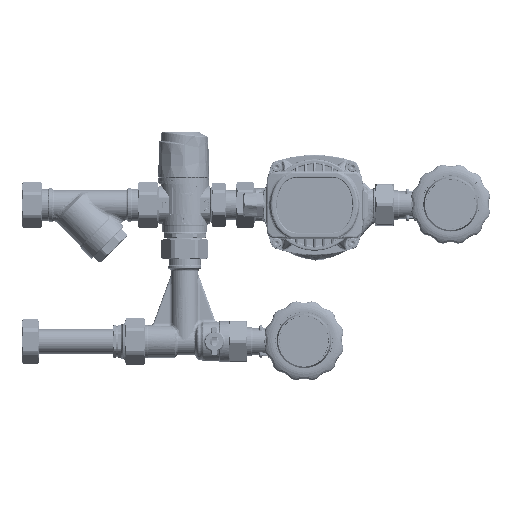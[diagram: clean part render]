
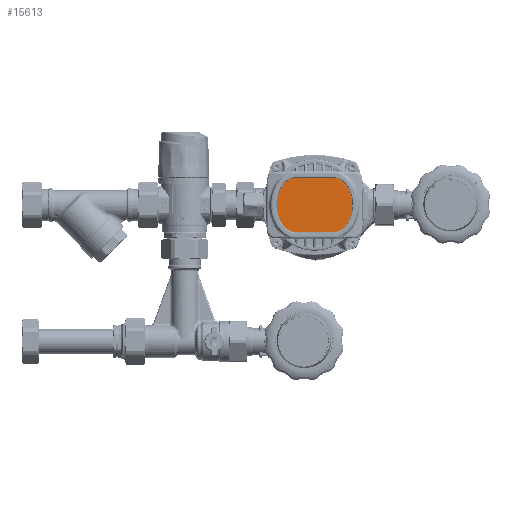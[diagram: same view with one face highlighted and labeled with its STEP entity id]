
A CAD part, top view. The second image highlights one B-rep face of the part: STEP entity #15613.
In plain terms, the highlighted planar face has unit normal (0, -0.003, 1) as drawn and (0, 0, -1) by its records, which use the part's own axes.
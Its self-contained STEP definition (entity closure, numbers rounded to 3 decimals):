
#9531 = B_SPLINE_CURVE_WITH_KNOTS ( 'NONE', 3,
 ( #157178, #33860, #27964, #168970, #171890, #366797 ),
 .UNSPECIFIED., .F., .F.,
 ( 4, 1, 1, 4 ),
 ( 0.01, 0.255, 0.5, 0.99 ),
 .UNSPECIFIED. ) ;
#12905 = AXIS2_PLACEMENT_3D ( 'NONE', #243827, #335669, #278312 ) ;
#13279 = CARTESIAN_POINT ( 'NONE',  ( 34.355, 2.144, -93.329 ) ) ;
#13505 = EDGE_CURVE ( 'NONE', #85295, #127082, #444747, .T. ) ;
#15613 = ADVANCED_FACE ( 'NONE', ( #363862 ), #151067, .F. ) ;
#19122 = VERTEX_POINT ( 'NONE', #418977 ) ;
#23032 = EDGE_CURVE ( 'NONE', #72004, #232828, #373623, .T. ) ;
#27964 = CARTESIAN_POINT ( 'NONE',  ( -33.464, 6.4, -93.329 ) ) ;
#30252 = LINE ( 'NONE', #345529, #179723 ) ;
#32012 = ORIENTED_EDGE ( 'NONE', *, *, #35076, .F. ) ;
#33860 = CARTESIAN_POINT ( 'NONE',  ( -32.205, 10.484, -93.329 ) ) ;
#35076 = EDGE_CURVE ( 'NONE', #19122, #36087, #83563, .T. ) ;
#36087 = VERTEX_POINT ( 'NONE', #185880 ) ;
#37131 = CARTESIAN_POINT ( 'NONE',  ( 15.656, -9., -93.329 ) ) ;
#37791 = EDGE_CURVE ( 'NONE', #401682, #253625, #30252, .T. ) ;
#49975 = VERTEX_POINT ( 'NONE', #162963 ) ;
#55965 = CARTESIAN_POINT ( 'NONE',  ( 31.4, -12.474, -93.329 ) ) ;
#57699 = DIRECTION ( 'NONE',  ( 1., 0., 0. ) ) ;
#59665 = DIRECTION ( 'NONE',  ( 1., 0., 0. ) ) ;
#62149 = LINE ( 'NONE', #74924, #354452 ) ;
#72004 = VERTEX_POINT ( 'NONE', #55965 ) ;
#72740 = VERTEX_POINT ( 'NONE', #429162 ) ;
#74081 = AXIS2_PLACEMENT_3D ( 'NONE', #399607, #267621, #57699 ) ;
#74924 = CARTESIAN_POINT ( 'NONE',  ( -15.653, 24.4, -93.329 ) ) ;
#77283 = AXIS2_PLACEMENT_3D ( 'NONE', #111167, #292612, #145860 ) ;
#81374 = ORIENTED_EDGE ( 'NONE', *, *, #326777, .F. ) ;
#83563 = CIRCLE ( 'NONE', #12905, 15.4 ) ;
#85295 = VERTEX_POINT ( 'NONE', #282780 ) ;
#91049 = CARTESIAN_POINT ( 'NONE',  ( 32.208, -10.484, -93.329 ) ) ;
#94669 = EDGE_LOOP ( 'NONE', ( #292743, #289690, #400077, #81374, #168072, #358781, #408209, #183496, #294723, #288062, #32012, #288462 ) ) ;
#108379 = DIRECTION ( 'NONE',  ( 0., 0., 1. ) ) ;
#110709 = AXIS2_PLACEMENT_3D ( 'NONE', #159796, #395017, #323393 ) ;
#111167 = CARTESIAN_POINT ( 'NONE',  ( 15.656, 9., -93.329 ) ) ;
#112584 = CARTESIAN_POINT ( 'NONE',  ( -26.943, -19.474, -93.329 ) ) ;
#112941 = CIRCLE ( 'NONE', #212492, 23.021 ) ;
#127082 = VERTEX_POINT ( 'NONE', #112584 ) ;
#134086 = CIRCLE ( 'NONE', #74081, 15.4 ) ;
#140151 = DIRECTION ( 'NONE',  ( 0., 0., 1. ) ) ;
#145860 = DIRECTION ( 'NONE',  ( 1., 0., 0. ) ) ;
#148445 = AXIS2_PLACEMENT_3D ( 'NONE', #37131, #200701, #59665 ) ;
#151067 = PLANE ( 'NONE',  #254058 ) ;
#155997 = VERTEX_POINT ( 'NONE', #315190 ) ;
#157178 = CARTESIAN_POINT ( 'NONE',  ( -31.397, 12.474, -93.329 ) ) ;
#159796 = CARTESIAN_POINT ( 'NONE',  ( -10.066, -3.817, -93.329 ) ) ;
#160328 = CARTESIAN_POINT ( 'NONE',  ( 33.016, 8.493, -93.329 ) ) ;
#162963 = CARTESIAN_POINT ( 'NONE',  ( 15.656, 24.4, -93.329 ) ) ;
#168072 = ORIENTED_EDGE ( 'NONE', *, *, #387462, .F. ) ;
#168970 = CARTESIAN_POINT ( 'NONE',  ( -34.353, -2.145, -93.329 ) ) ;
#171890 = CARTESIAN_POINT ( 'NONE',  ( -33.013, -8.493, -93.329 ) ) ;
#175865 = CARTESIAN_POINT ( 'NONE',  ( 15.656, -24.4, -93.329 ) ) ;
#179579 = CARTESIAN_POINT ( 'NONE',  ( -15.653, 9., -93.329 ) ) ;
#179723 = VECTOR ( 'NONE', #379829, 1000. ) ;
#183496 = ORIENTED_EDGE ( 'NONE', *, *, #13505, .F. ) ;
#185880 = CARTESIAN_POINT ( 'NONE',  ( -26.943, 19.474, -93.329 ) ) ;
#200701 = DIRECTION ( 'NONE',  ( 0., 0., 1. ) ) ;
#212492 = AXIS2_PLACEMENT_3D ( 'NONE', #306725, #108379, #387187 ) ;
#228266 = EDGE_CURVE ( 'NONE', #232828, #72740, #349456, .T. ) ;
#230213 = CARTESIAN_POINT ( 'NONE',  ( -15.653, -24.4, -93.329 ) ) ;
#232828 = VERTEX_POINT ( 'NONE', #443525 ) ;
#243827 = CARTESIAN_POINT ( 'NONE',  ( -15.653, 9., -93.329 ) ) ;
#248428 = DIRECTION ( 'NONE',  ( 1., 0., 0. ) ) ;
#249042 = DIRECTION ( 'NONE',  ( 0., 0., 1. ) ) ;
#249464 = DIRECTION ( 'NONE',  ( 1., 0., 0. ) ) ;
#253625 = VERTEX_POINT ( 'NONE', #175865 ) ;
#254058 = AXIS2_PLACEMENT_3D ( 'NONE', #179579, #417798, #248428 ) ;
#267621 = DIRECTION ( 'NONE',  ( 0., 0., 1. ) ) ;
#272283 = EDGE_CURVE ( 'NONE', #127082, #401682, #134086, .T. ) ;
#278312 = DIRECTION ( 'NONE',  ( 1., 0., 0. ) ) ;
#278393 = CIRCLE ( 'NONE', #353890, 23.021 ) ;
#279485 = VERTEX_POINT ( 'NONE', #342098 ) ;
#282780 = CARTESIAN_POINT ( 'NONE',  ( -31.397, -12.474, -93.329 ) ) ;
#288062 = ORIENTED_EDGE ( 'NONE', *, *, #391202, .F. ) ;
#288462 = ORIENTED_EDGE ( 'NONE', *, *, #383542, .F. ) ;
#289690 = ORIENTED_EDGE ( 'NONE', *, *, #228266, .F. ) ;
#292612 = DIRECTION ( 'NONE',  ( 0., 0., 1. ) ) ;
#292743 = ORIENTED_EDGE ( 'NONE', *, *, #410411, .F. ) ;
#294723 = ORIENTED_EDGE ( 'NONE', *, *, #331573, .F. ) ;
#305603 = CIRCLE ( 'NONE', #77283, 15.4 ) ;
#306725 = CARTESIAN_POINT ( 'NONE',  ( 10.069, -3.817, -93.329 ) ) ;
#315190 = CARTESIAN_POINT ( 'NONE',  ( -31.397, 12.474, -93.329 ) ) ;
#316643 = DIRECTION ( 'NONE',  ( -1., 0., 0. ) ) ;
#323393 = DIRECTION ( 'NONE',  ( 1., 0., 0. ) ) ;
#325914 = AXIS2_PLACEMENT_3D ( 'NONE', #378423, #140151, #249464 ) ;
#326777 = EDGE_CURVE ( 'NONE', #279485, #72004, #112941, .T. ) ;
#331573 = EDGE_CURVE ( 'NONE', #155997, #85295, #9531, .T. ) ;
#335669 = DIRECTION ( 'NONE',  ( 0., 0., 1. ) ) ;
#342098 = CARTESIAN_POINT ( 'NONE',  ( 26.946, -19.474, -93.329 ) ) ;
#345529 = CARTESIAN_POINT ( 'NONE',  ( -15.653, -24.4, -93.329 ) ) ;
#349456 = CIRCLE ( 'NONE', #325914, 23.021 ) ;
#353890 = AXIS2_PLACEMENT_3D ( 'NONE', #361306, #249042, #430257 ) ;
#354452 = VECTOR ( 'NONE', #316643, 1000. ) ;
#355030 = CIRCLE ( 'NONE', #148445, 15.4 ) ;
#358781 = ORIENTED_EDGE ( 'NONE', *, *, #37791, .F. ) ;
#361306 = CARTESIAN_POINT ( 'NONE',  ( -10.066, 3.817, -93.329 ) ) ;
#363862 = FACE_OUTER_BOUND ( 'NONE', #94669, .T. ) ;
#366797 = CARTESIAN_POINT ( 'NONE',  ( -31.397, -12.474, -93.329 ) ) ;
#373623 = B_SPLINE_CURVE_WITH_KNOTS ( 'NONE', 3,
 ( #401429, #91049, #423928, #13279, #160328, #438969 ),
 .UNSPECIFIED., .F., .F.,
 ( 4, 1, 1, 4 ),
 ( 0.01, 0.255, 0.5, 0.99 ),
 .UNSPECIFIED. ) ;
#378423 = CARTESIAN_POINT ( 'NONE',  ( 10.069, 3.817, -93.329 ) ) ;
#379829 = DIRECTION ( 'NONE',  ( 1., 0., 0. ) ) ;
#383542 = EDGE_CURVE ( 'NONE', #49975, #19122, #62149, .T. ) ;
#387187 = DIRECTION ( 'NONE',  ( 1., 0., 0. ) ) ;
#387462 = EDGE_CURVE ( 'NONE', #253625, #279485, #355030, .T. ) ;
#391202 = EDGE_CURVE ( 'NONE', #36087, #155997, #278393, .T. ) ;
#395017 = DIRECTION ( 'NONE',  ( 0., 0., 1. ) ) ;
#399607 = CARTESIAN_POINT ( 'NONE',  ( -15.653, -9., -93.329 ) ) ;
#400077 = ORIENTED_EDGE ( 'NONE', *, *, #23032, .F. ) ;
#401429 = CARTESIAN_POINT ( 'NONE',  ( 31.4, -12.474, -93.329 ) ) ;
#401682 = VERTEX_POINT ( 'NONE', #230213 ) ;
#408209 = ORIENTED_EDGE ( 'NONE', *, *, #272283, .F. ) ;
#410411 = EDGE_CURVE ( 'NONE', #72740, #49975, #305603, .T. ) ;
#417798 = DIRECTION ( 'NONE',  ( 0., 0., 1. ) ) ;
#418977 = CARTESIAN_POINT ( 'NONE',  ( -15.653, 24.4, -93.329 ) ) ;
#423928 = CARTESIAN_POINT ( 'NONE',  ( 33.468, -6.401, -93.329 ) ) ;
#429162 = CARTESIAN_POINT ( 'NONE',  ( 26.946, 19.474, -93.329 ) ) ;
#430257 = DIRECTION ( 'NONE',  ( 1., 0., 0. ) ) ;
#438969 = CARTESIAN_POINT ( 'NONE',  ( 31.4, 12.474, -93.329 ) ) ;
#443525 = CARTESIAN_POINT ( 'NONE',  ( 31.4, 12.474, -93.329 ) ) ;
#444747 = CIRCLE ( 'NONE', #110709, 23.021 ) ;
